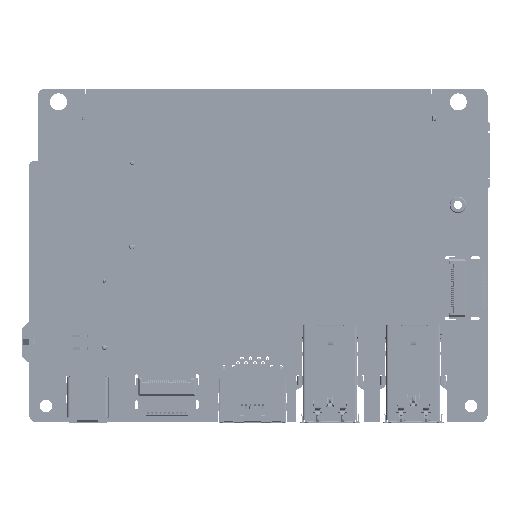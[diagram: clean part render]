
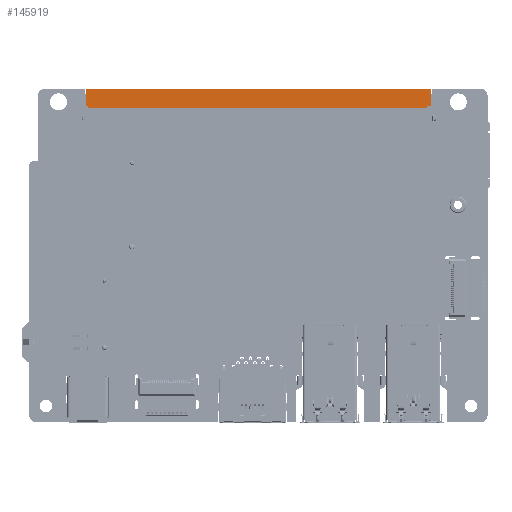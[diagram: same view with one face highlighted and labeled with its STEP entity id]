
A CAD part, front view. The second image highlights one B-rep face of the part: STEP entity #145919.
In plain terms, the highlighted planar face has unit normal (0, -1, 0).
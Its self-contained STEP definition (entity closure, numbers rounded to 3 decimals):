
#30001=DIRECTION('',(-1.,0.,0.));
#30002=VECTOR('',#30001,1.005);
#30003=CARTESIAN_POINT('',(41.5,-1.4,3.04));
#30004=LINE('',#30003,#30002);
#30005=DIRECTION('',(0.,0.,-1.));
#30006=VECTOR('',#30005,0.5);
#30007=CARTESIAN_POINT('',(40.495,-1.4,3.04));
#30008=LINE('',#30007,#30006);
#30009=DIRECTION('',(-1.,0.,0.));
#30010=VECTOR('',#30009,81.445);
#30011=CARTESIAN_POINT('',(40.495,-1.4,2.54));
#30012=LINE('',#30011,#30010);
#30013=DIRECTION('',(0.,0.,1.));
#30014=VECTOR('',#30013,4.06);
#30015=CARTESIAN_POINT('',(-41.5,-1.4,3.04));
#30016=LINE('',#30015,#30014);
#30017=DIRECTION('',(1.,0.,0.));
#30018=VECTOR('',#30017,83.);
#30019=CARTESIAN_POINT('',(-41.5,-1.4,7.1));
#30020=LINE('',#30019,#30018);
#30021=DIRECTION('',(0.,0.,-1.));
#30022=VECTOR('',#30021,4.06);
#30023=CARTESIAN_POINT('',(41.5,-1.4,7.1));
#30024=LINE('',#30023,#30022);
#34326=DIRECTION('',(1.,0.,0.));
#34327=VECTOR('',#34326,0.55);
#34328=CARTESIAN_POINT('',(-41.5,-1.4,3.04));
#34329=LINE('',#34328,#34327);
#34338=DIRECTION('',(0.,0.,-1.));
#34339=VECTOR('',#34338,0.5);
#34340=CARTESIAN_POINT('',(-40.95,-1.4,3.04));
#34341=LINE('',#34340,#34339);
#118933=CARTESIAN_POINT('',(-40.95,-1.4,2.54));
#118934=VERTEX_POINT('',#118933);
#118935=CARTESIAN_POINT('',(40.495,-1.4,2.54));
#118936=VERTEX_POINT('',#118935);
#118937=CARTESIAN_POINT('',(-41.5,-1.4,3.04));
#118938=CARTESIAN_POINT('',(-41.5,-1.4,7.1));
#118939=VERTEX_POINT('',#118937);
#118940=VERTEX_POINT('',#118938);
#118941=CARTESIAN_POINT('',(41.5,-1.4,7.1));
#118942=VERTEX_POINT('',#118941);
#118943=CARTESIAN_POINT('',(41.5,-1.4,3.04));
#118944=VERTEX_POINT('',#118943);
#118945=CARTESIAN_POINT('',(40.495,-1.4,3.04));
#118946=VERTEX_POINT('',#118945);
#118947=CARTESIAN_POINT('',(-40.95,-1.4,3.04));
#118948=VERTEX_POINT('',#118947);
#145898=CARTESIAN_POINT('',(0.,-1.4,4.82));
#145899=DIRECTION('',(0.,1.,0.));
#145900=DIRECTION('',(0.,0.,-1.));
#145901=AXIS2_PLACEMENT_3D('',#145898,#145899,#145900);
#145902=PLANE('',#145901);
#145904=ORIENTED_EDGE('',*,*,#145903,.T.);
#145905=ORIENTED_EDGE('',*,*,#145891,.T.);
#145906=ORIENTED_EDGE('',*,*,#122271,.T.);
#145908=ORIENTED_EDGE('',*,*,#145907,.F.);
#145910=ORIENTED_EDGE('',*,*,#145909,.F.);
#145912=ORIENTED_EDGE('',*,*,#145911,.T.);
#145914=ORIENTED_EDGE('',*,*,#145913,.T.);
#145916=ORIENTED_EDGE('',*,*,#145915,.T.);
#145917=EDGE_LOOP('',(#145904,#145905,#145906,#145908,#145910,#145912,#145914,
#145916));
#145918=FACE_OUTER_BOUND('',#145917,.F.);
#122271=EDGE_CURVE('',#118936,#118934,#30012,.T.);
#145891=EDGE_CURVE('',#118946,#118936,#30008,.T.);
#145903=EDGE_CURVE('',#118944,#118946,#30004,.T.);
#145907=EDGE_CURVE('',#118948,#118934,#34341,.T.);
#145909=EDGE_CURVE('',#118939,#118948,#34329,.T.);
#145911=EDGE_CURVE('',#118939,#118940,#30016,.T.);
#145913=EDGE_CURVE('',#118940,#118942,#30020,.T.);
#145915=EDGE_CURVE('',#118942,#118944,#30024,.T.);
#145919=ADVANCED_FACE('',(#145918),#145902,.F.);
